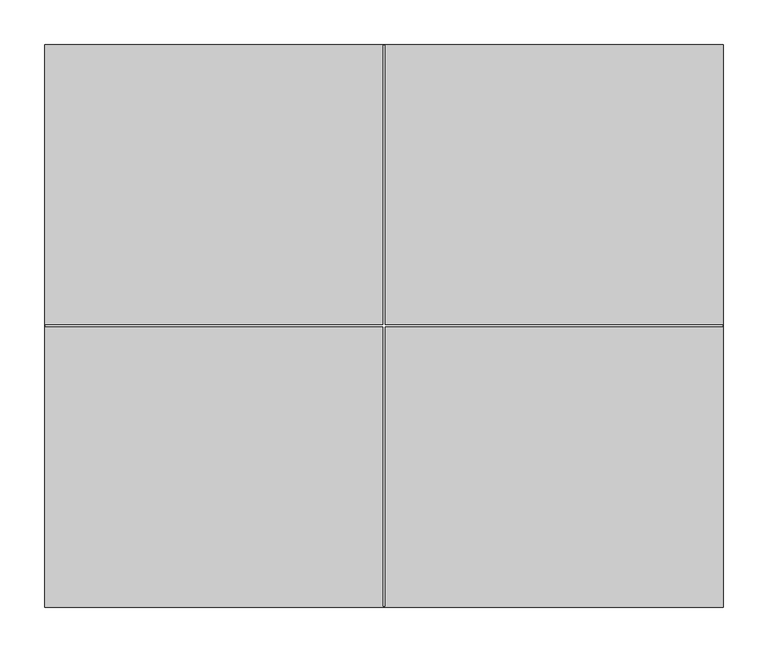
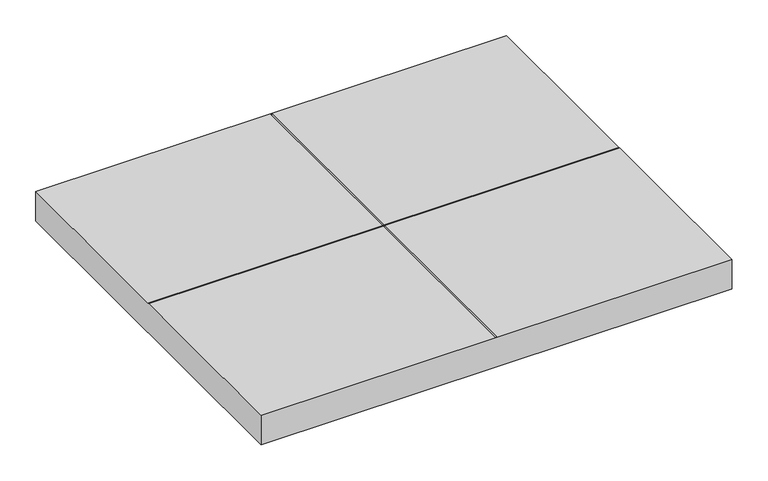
"""IFC4 building model written with IfcOpenShell, lengths in millimetres: furniture geometry, Steelcase - Universal Storage - Cushion Top - for Lateral File : Proud Steel Front - 24 7/8D x 30W."""

from ifc_helpers import new_model, si_unit, frame, origin, place, context, project, spatial, polyline, outline, extrude, source, transform, mapped, element, save


def furniture_22c2bf9f(model_context):
    return source(origin(), model_context, "Body", "SweptSolid", [
        extrude(outline(polyline([(762.0, 0.0), (762.0, -631.952), (0.0, -631.952), (0.0, 0.0), (762.0, 0.0)]), holes=[polyline([(0.889, -315.087), (0.889, -316.865), (380.111, -316.865), (380.111, -631.0630015), (381.889, -631.0630015), (381.889, -316.865), (761.1109651, -316.865), (761.1109651, -315.087), (381.889, -315.087), (381.889, -0.889), (380.111, -0.889), (380.111, -315.087), (0.889, -315.087)])]), frame((0.0, 0.0, 533.4), z_axis=(0.0, 0.0, 1.0), x_axis=(1.0, 0.0, 0.0)), (0.0, 0.0, 1.0), 50.7999971),
    ])


if __name__ == "__main__":
    model = new_model("IFC4")
    model_context = context("Model", 3, world=origin())
    ifc_project = project(units=[si_unit("LENGTHUNIT", "METRE", prefix="MILLI")], contexts=[model_context])
    site = spatial("IfcSite", under=ifc_project)
    building = spatial("IfcBuilding", under=site)
    placement = place(None, origin())
    furniture_shape = furniture_22c2bf9f(model_context)
    element("IfcFurniture", 1, ObjectType="Steelcase - Universal Storage - Cushion Top - for Lateral File : Proud Steel Front - 24 7/8D x 30W", at=placement, inside=building, context=model_context, shape_type="MappedRepresentation", body=[
        mapped(furniture_shape, transform((0.0, 0.0, 0.0), x_axis=(1.0, 0.0, 0.0), y_axis=(0.0, 1.0, 0.0), z_axis=(0.0, 0.0, 1.0))),
    ])
    save(model, "model.ifc")
